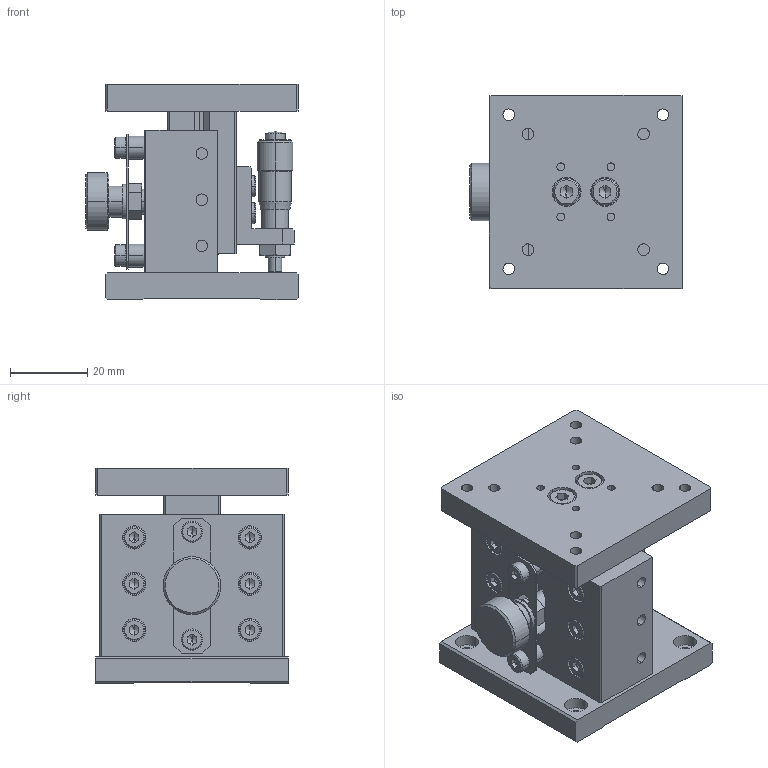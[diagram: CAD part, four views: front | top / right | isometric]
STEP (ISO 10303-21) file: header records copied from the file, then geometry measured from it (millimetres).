
FILE_DESCRIPTION (( 'STEP AP214' ), '1' );
FILE_NAME ('ZM05A-C1K.STEP', '2006-09-20T08:01:26', ( ' ' ), ( ' ' ), 'SwSTEP 2.0', 'SolidWorks 2006052', '' );
FILE_SCHEMA (( 'AUTOMOTIVE_DESIGN' ));
Length unit declared in the file: millimetre
Products named in the file (3): 004600-1110(3D); ZM05A-C1K; 000300-1020(3D)
Assembly tree (2 placements, depth 2):
  ZM05A-C1K
    000300-1020(3D)
    004600-1110(3D)
Bounding box: 55.1 x 50 x 56 mm (x, y, z)
Volume: 69586.6 mm3; surface area: 33614.8 mm2
Topology: 2 solids, 36 shells, 1111 faces, 2476 edges, 1460 vertices
Faces by surface type: plane 513, cylinder 347, cone 243, sphere 8
Entity records: 30452 total; most frequent: DIRECTION 5578, CARTESIAN_POINT 5402, ORIENTED_EDGE 4812, EDGE_CURVE 2406, AXIS2_PLACEMENT_3D 2120, VERTEX_POINT 1460, VECTOR 1338, LINE 1338
